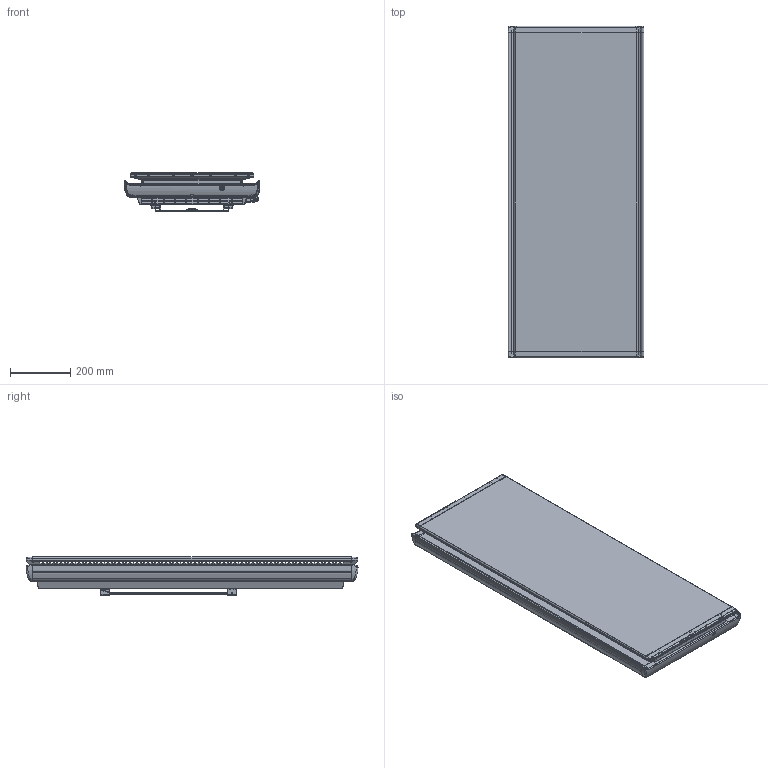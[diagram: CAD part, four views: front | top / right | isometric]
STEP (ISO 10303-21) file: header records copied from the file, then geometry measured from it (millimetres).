
FILE_DESCRIPTION(('FreeCAD Model'),'2;1');
FILE_NAME('Open CASCADE Shape Model','2026-06-08T14:20:56',(''),(''), 'Open CASCADE STEP processor 7.8','FreeCAD','Unknown');
FILE_SCHEMA(('AUTOMOTIVE_DESIGN { 1 0 10303 214 1 1 1 1 }'));
Length unit declared in the file: millimetre
Products named in the file (15): Unnamed; ICO_GR-SUPPORTO-MURALE_750-1000_ASM; ICO_SUPPORTO-MURALE-SUP; GLA_TRAVERSA-SUPPORTO; ICO_SUPPORTO-MURALE-INF; ICO_GR-POSTERIORE_1000W_ASM; ICO_POSTERIORE_1000W; DEK_AGGANCIO-SUPPORTO; ICO_COPERTURA-LATERALE-COMANDI; ICO_ADESIVO; ICO_GR-ANTERIORE_1000W_ASM; ICO_ANTERIORE_1000W; ICO_ESTRUSO_1000W_DX-DISPLAY; ICO_ESTRUSO_1000W_SX; ICO_TAPPO
Assembly tree (16 placements, depth 3):
  Unnamed
    ICO_GR-SUPPORTO-MURALE_750-1000_ASM
      ICO_SUPPORTO-MURALE-SUP
      GLA_TRAVERSA-SUPPORTO
      ICO_SUPPORTO-MURALE-INF
    ICO_GR-POSTERIORE_1000W_ASM
      ICO_POSTERIORE_1000W
      DEK_AGGANCIO-SUPPORTO  x2
    ICO_COPERTURA-LATERALE-COMANDI
    ICO_ADESIVO
    ICO_GR-ANTERIORE_1000W_ASM
      ICO_ANTERIORE_1000W
      ICO_ESTRUSO_1000W_DX-DISPLAY
      ICO_ESTRUSO_1000W_SX
      ICO_TAPPO  x2
Bounding box: 449.69 x 1100.4 x 126.2 mm (x, y, z)
Volume: 1996112.6 mm3; surface area: 3531372.1 mm2
Topology: 13 solids, 13 shells, 3855 faces, 10657 edges, 6867 vertices
Faces by surface type: plane 2433, cylinder 899, bspline 312, cone 135, torus 46, sphere 30
Entity records: 113798 total; most frequent: CARTESIAN_POINT 33053, ORIENTED_EDGE 17560, DIRECTION 15094, EDGE_CURVE 8780, LINE 6152, VECTOR 6152, VERTEX_POINT 5665, AXIS2_PLACEMENT_3D 4471
